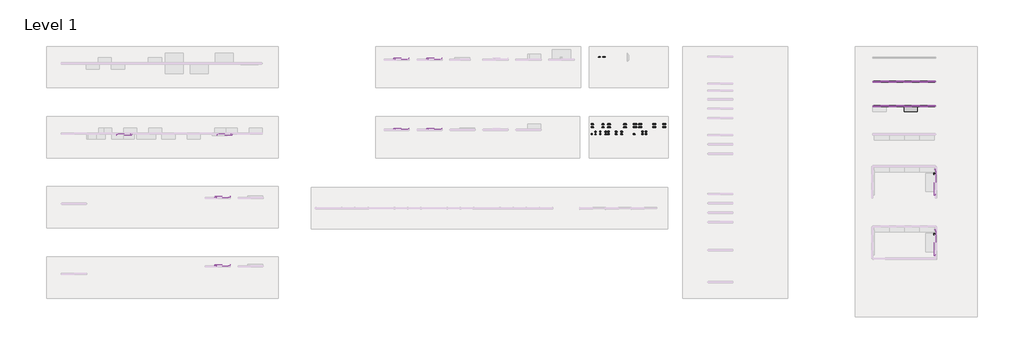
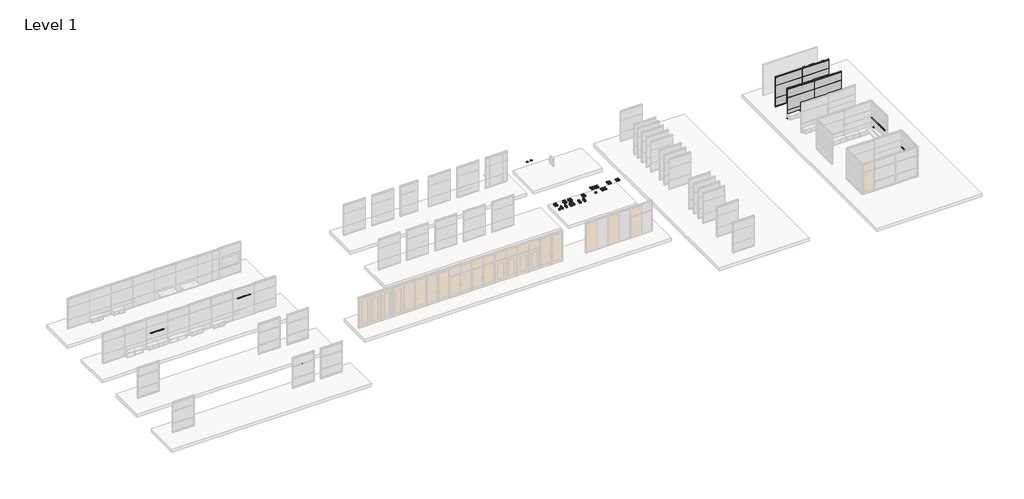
# One storey, part 13 of 13: 96 proxies, 10 light fixtures, 1 furniture element.
"""IFC4 building model written with IfcOpenShell, lengths in millimetres."""

from ifc_helpers import new_model, si_unit, origin, place, context, project, spatial, transform, mapped, element, save
from components import electrical_fixtures_6ca6a594, electrical_fixtures_9293c94c, electrical_fixtures_81150f9e, electrical_fixtures_d6838e8a, electrical_fixtures_fca81bba, electrical_fixtures_cc84fcd7, electrical_fixtures_a27f54d7, electrical_fixtures_2c1a8ef8, electrical_fixtures_bc09baf7, electrical_fixtures_3127a11c, electrical_fixtures_95b66924, electrical_fixtures_28eba391, electrical_fixtures_258e8735, electrical_fixtures_5008ccd6, electrical_fixtures_45b038c0, electrical_fixtures_cc8c5b9d, dual_1_power_1_data_6782b69d, dual_1_power_1_data_70394452, fascia_teknion_ceiling_and_base_ffb1_896a0c16, fascia_teknion_ceiling_and_base_ffb1_9837481b, frame_teknion_horizontal_rail_fkk_8a89803d, level_i_b17bdb42, level_i_0f8aae00, level_i_bottom_886b868d, level_i_top_2ca9f02e, level_ii_c1ed75fc, level_ii_f53a0955, level_iii_4f8121dc, level_iii_edf6dfbd, pd_horizontal_module_communications_3bd114d5, pd_horizontal_module_double_one_15_amp_standard_91662da0, pd_horizontal_module_double_one_20_amp_standard_4a8edad1, pd_horizontal_module_double_two_15_amp_standard_6849602c, pd_horizontal_module_double_two_20_amp_standard_3f62b5b6, pd_horizontal_module_single_15_amp_standard_5c934545, pd_horizontal_module_single_20_amp_standard_525e48b1, pd_vertical_module_communications_1fad3fac, pd_vertical_module_double_one_15_amp_standard_ac9b215e, pd_vertical_module_double_one_20_amp_standard_2b35b868, pd_vertical_module_double_two_15_amp_standard_5d486d28, pd_vertical_module_double_two_20_amp_standard_2ea52ada, pd_vertical_module_quad_15_amp_standard_all_outlets_71b641b9, pd_vertical_module_quad_20_amp_standard_all_outlets_6899d5ff, pd_vertical_module_single_15_amp_standard_42925ea9, pd_vertical_module_single_20_amp_standard_4b623c85, pd_vertical_module_triple_15_amp_standard_c933c7ee, pd_vertical_module_triple_20_amp_standard_33b3a22f, quad_2_power_2_usb_1_data_bfb4347e, furniture_d19da1b5, light_fixture_f7112a97, task_light_84543311, task_light_f32377d4

model = new_model("IFC4")

# Units and contexts
model_context = context("Model", 3, world=origin())
ifc_project = project(units=[si_unit("LENGTHUNIT", "METRE", prefix="MILLI")], contexts=[model_context])

# Site, building, storey
site = spatial("IfcSite", under=ifc_project)
building = spatial("IfcBuilding", under=site)
storey = spatial("IfcBuildingStorey", under=building, Name="Level 1", Elevation=0.0)

# Proxies
placement = place(None, origin())
electrical_fixtures_shape = electrical_fixtures_6ca6a594(model_context)
element("IfcBuildingElementProxy", 1, Name="Electrical-Teknion-EPDHS_Horizontal_Power_Data_Single-R2019 : PD Horizontal Module - Single 20 Amp USB (A+C)", ObjectType="Electrical-Teknion-EPDHS_Horizontal_Power_Data_Single-R2019 : PD Horizontal Module - Single 20 Amp USB (A+C)", at=placement, inside=storey, context=model_context, shape_type="MappedRepresentation", body=[
    mapped(electrical_fixtures_shape, transform((1383.1492935, 16260.8647881, 0.0), x_axis=(1.0, 0.0, 0.0), y_axis=(0.0, 1.0, 0.0), z_axis=(0.0, 0.0, 1.0))),
])
electrical_fixtures_2_shape = electrical_fixtures_9293c94c(model_context)
element("IfcBuildingElementProxy", 2, Name="Electrical-Teknion-EPDHD_Horizontal_Power_Data_Double-R2019 : PD Horizontal Module - Double 15 Amp USB (A+C)", ObjectType="Electrical-Teknion-EPDHD_Horizontal_Power_Data_Double-R2019 : PD Horizontal Module - Double 15 Amp USB (A+C)", at=placement, inside=storey, context=model_context, shape_type="MappedRepresentation", body=[
    mapped(electrical_fixtures_2_shape, transform((2000.5429379, 16611.4196854, 0.0), x_axis=(1.0, 0.0, 0.0), y_axis=(0.0, 1.0, 0.0), z_axis=(0.0, 0.0, 1.0))),
])
electrical_fixtures_3_shape = electrical_fixtures_81150f9e(model_context)
element("IfcBuildingElementProxy", 3, Name="Electrical-Teknion-EPDHD_Horizontal_Power_Data_Double-R2019 : PD Horizontal Module - Double 20 Amp USB (A+C)", ObjectType="Electrical-Teknion-EPDHD_Horizontal_Power_Data_Double-R2019 : PD Horizontal Module - Double 20 Amp USB (A+C)", at=placement, inside=storey, context=model_context, shape_type="MappedRepresentation", body=[
    mapped(electrical_fixtures_3_shape, transform((2000.5429379, 16835.8311056, 0.0), x_axis=(1.0, 0.0, 0.0), y_axis=(0.0, 1.0, 0.0), z_axis=(0.0, 0.0, 1.0))),
])
electrical_fixtures_4_shape = electrical_fixtures_d6838e8a(model_context)
element("IfcBuildingElementProxy", 4, Name="Electrical-Teknion-EPDHD_Horizontal_Power_Data_Double-R2019 : PD Horizontal Module - Double 15 Amp USB (A+C) & 15 Amp Standard", ObjectType="Electrical-Teknion-EPDHD_Horizontal_Power_Data_Double-R2019 : PD Horizontal Module - Double 15 Amp USB (A+C) & 15 Amp Standard", at=placement, inside=storey, context=model_context, shape_type="MappedRepresentation", body=[
    mapped(electrical_fixtures_4_shape, transform((2808.92989, 16611.4196854, 0.0), x_axis=(1.0, 0.0, 0.0), y_axis=(0.0, 1.0, 0.0), z_axis=(0.0, 0.0, 1.0))),
])
electrical_fixtures_5_shape = electrical_fixtures_fca81bba(model_context)
element("IfcBuildingElementProxy", 5, Name="Electrical-Teknion-EPDHD_Horizontal_Power_Data_Double-R2019 : PD Horizontal Module - Double 20 Amp USB (A+C) & 20 Amp Standard", ObjectType="Electrical-Teknion-EPDHD_Horizontal_Power_Data_Double-R2019 : PD Horizontal Module - Double 20 Amp USB (A+C) & 20 Amp Standard", at=placement, inside=storey, context=model_context, shape_type="MappedRepresentation", body=[
    mapped(electrical_fixtures_5_shape, transform((2808.92989, 16835.8311056, 0.0), x_axis=(1.0, 0.0, 0.0), y_axis=(0.0, 1.0, 0.0), z_axis=(0.0, 0.0, 1.0))),
])
electrical_fixtures_6_shape = electrical_fixtures_cc84fcd7(model_context)
element("IfcBuildingElementProxy", 6, Name="Electrical-Teknion-EPDMS_Vertical_Power_Data_Single-R2019 : PD Vertical Module - Single 15 Amp USB (A+C)", ObjectType="Electrical-Teknion-EPDMS_Vertical_Power_Data_Single-R2019 : PD Vertical Module - Single 15 Amp USB (A+C)", at=placement, inside=storey, context=model_context, shape_type="MappedRepresentation", body=[
    mapped(electrical_fixtures_6_shape, transform((-2279.8579837, 16036.4533679, 0.0), x_axis=(1.0, 0.0, 0.0), y_axis=(0.0, 1.0, 0.0), z_axis=(0.0, 0.0, 1.0))),
])
electrical_fixtures_7_shape = electrical_fixtures_a27f54d7(model_context)
element("IfcBuildingElementProxy", 7, Name="Electrical-Teknion-EPDMS_Vertical_Power_Data_Single-R2019 : PD Vertical Module - Single 20 Amp USB (A+C)", ObjectType="Electrical-Teknion-EPDMS_Vertical_Power_Data_Single-R2019 : PD Vertical Module - Single 20 Amp USB (A+C)", at=placement, inside=storey, context=model_context, shape_type="MappedRepresentation", body=[
    mapped(electrical_fixtures_7_shape, transform((-2279.8579837, 16260.8647881, 0.0), x_axis=(1.0, 0.0, 0.0), y_axis=(0.0, 1.0, 0.0), z_axis=(0.0, 0.0, 1.0))),
])
electrical_fixtures_8_shape = electrical_fixtures_2c1a8ef8(model_context)
element("IfcBuildingElementProxy", 8, Name="Electrical-Teknion-EPDHS_Horizontal_Power_Data_Single-R2019 : PD Horizontal Module - Single 15 Amp USB (A+C)", ObjectType="Electrical-Teknion-EPDHS_Horizontal_Power_Data_Single-R2019 : PD Horizontal Module - Single 15 Amp USB (A+C)", at=placement, inside=storey, context=model_context, shape_type="MappedRepresentation", body=[
    mapped(electrical_fixtures_8_shape, transform((1383.1492935, 16036.4533679, 0.0), x_axis=(1.0, 0.0, 0.0), y_axis=(0.0, 1.0, 0.0), z_axis=(0.0, 0.0, 1.0))),
])
electrical_fixtures_9_shape = electrical_fixtures_bc09baf7(model_context)
element("IfcBuildingElementProxy", 9, Name="Electrical-Teknion-EPDMD_Vertical_Power_Data_Double-R2019 : PD Vertical Module - Double 15 Amp USB (A+C)", ObjectType="Electrical-Teknion-EPDMD_Vertical_Power_Data_Double-R2019 : PD Vertical Module - Double 15 Amp USB (A+C)", at=placement, inside=storey, context=model_context, shape_type="MappedRepresentation", body=[
    mapped(electrical_fixtures_9_shape, transform((-1017.8939167, 16036.4533679, 0.0), x_axis=(1.0, 0.0, 0.0), y_axis=(0.0, 1.0, 0.0), z_axis=(0.0, 0.0, 1.0))),
])
electrical_fixtures_10_shape = electrical_fixtures_3127a11c(model_context)
element("IfcBuildingElementProxy", 10, Name="Electrical-Teknion-EPDMD_Vertical_Power_Data_Double-R2019 : PD Vertical Module - Double 15 Amp USB (A+C) & 15 Amp Standard", ObjectType="Electrical-Teknion-EPDMD_Vertical_Power_Data_Double-R2019 : PD Vertical Module - Double 15 Amp USB (A+C) & 15 Amp Standard", at=placement, inside=storey, context=model_context, shape_type="MappedRepresentation", body=[
    mapped(electrical_fixtures_10_shape, transform((-574.3700001, 16036.4533679, 0.0), x_axis=(1.0, 0.0, 0.0), y_axis=(0.0, 1.0, 0.0), z_axis=(0.0, 0.0, 1.0))),
])
electrical_fixtures_11_shape = electrical_fixtures_95b66924(model_context)
element("IfcBuildingElementProxy", 11, Name="Electrical-Teknion-EPDMD_Vertical_Power_Data_Double-R2019 : PD Vertical Module - Double 20 Amp USB (A+C)", ObjectType="Electrical-Teknion-EPDMD_Vertical_Power_Data_Double-R2019 : PD Vertical Module - Double 20 Amp USB (A+C)", at=placement, inside=storey, context=model_context, shape_type="MappedRepresentation", body=[
    mapped(electrical_fixtures_11_shape, transform((-1017.8939167, 16260.8647881, 0.0), x_axis=(1.0, 0.0, 0.0), y_axis=(0.0, 1.0, 0.0), z_axis=(0.0, 0.0, 1.0))),
])
electrical_fixtures_12_shape = electrical_fixtures_28eba391(model_context)
element("IfcBuildingElementProxy", 12, Name="Electrical-Teknion-EPDMD_Vertical_Power_Data_Double-R2019 : PD Vertical Module - Double 20 Amp USB (A+C) & 20 Amp Standard", ObjectType="Electrical-Teknion-EPDMD_Vertical_Power_Data_Double-R2019 : PD Vertical Module - Double 20 Amp USB (A+C) & 20 Amp Standard", at=placement, inside=storey, context=model_context, shape_type="MappedRepresentation", body=[
    mapped(electrical_fixtures_12_shape, transform((-574.3700001, 16260.8647881, 0.0), x_axis=(1.0, 0.0, 0.0), y_axis=(0.0, 1.0, 0.0), z_axis=(0.0, 0.0, 1.0))),
])
electrical_fixtures_13_shape = electrical_fixtures_258e8735(model_context)
element("IfcBuildingElementProxy", 13, Name="Electrical-Teknion-EPDMQ_Vertical_Power_Data_Quad-R2019 : PD Vertical Module - Quad 15 Amp USB (A+C) & 15 Amp Standard", ObjectType="Electrical-Teknion-EPDMQ_Vertical_Power_Data_Quad-R2019 : PD Vertical Module - Quad 15 Amp USB (A+C) & 15 Amp Standard", at=placement, inside=storey, context=model_context, shape_type="MappedRepresentation", body=[
    mapped(electrical_fixtures_13_shape, transform((-359.3454086, 16611.4196854, 0.0), x_axis=(1.0, 0.0, 0.0), y_axis=(0.0, 1.0, 0.0), z_axis=(0.0, 0.0, 1.0))),
])
electrical_fixtures_14_shape = electrical_fixtures_5008ccd6(model_context)
element("IfcBuildingElementProxy", 14, Name="Electrical-Teknion-EPDMQ_Vertical_Power_Data_Quad-R2019 : PD Vertical Module - Quad 20 Amp USB (A+C) & 20 Amp Standard", ObjectType="Electrical-Teknion-EPDMQ_Vertical_Power_Data_Quad-R2019 : PD Vertical Module - Quad 20 Amp USB (A+C) & 20 Amp Standard", at=placement, inside=storey, context=model_context, shape_type="MappedRepresentation", body=[
    mapped(electrical_fixtures_14_shape, transform((-359.3454086, 16835.8311056, 0.0), x_axis=(1.0, 0.0, 0.0), y_axis=(0.0, 1.0, 0.0), z_axis=(0.0, 0.0, 1.0))),
])
electrical_fixtures_15_shape = electrical_fixtures_45b038c0(model_context)
element("IfcBuildingElementProxy", 15, Name="Electrical-Teknion-EPDMT_Vertical_Power_Data_Triple-R2019 : PD Vertical Module - Triple 15 Amp USB (A+C) & 15 Amp Standard", ObjectType="Electrical-Teknion-EPDMT_Vertical_Power_Data_Triple-R2019 : PD Vertical Module - Triple 15 Amp USB (A+C) & 15 Amp Standard", at=placement, inside=storey, context=model_context, shape_type="MappedRepresentation", body=[
    mapped(electrical_fixtures_15_shape, transform((-2109.4556285, 16611.4196854, 0.0), x_axis=(1.0, 0.0, 0.0), y_axis=(0.0, 1.0, 0.0), z_axis=(0.0, 0.0, 1.0))),
])
electrical_fixtures_16_shape = electrical_fixtures_cc8c5b9d(model_context)
element("IfcBuildingElementProxy", 16, Name="Electrical-Teknion-EPDMT_Vertical_Power_Data_Triple-R2019 : PD Vertical Module - Triple 20 Amp USB (A+C) & 20 Amp Standard", ObjectType="Electrical-Teknion-EPDMT_Vertical_Power_Data_Triple-R2019 : PD Vertical Module - Triple 20 Amp USB (A+C) & 20 Amp Standard", at=placement, inside=storey, context=model_context, shape_type="MappedRepresentation", body=[
    mapped(electrical_fixtures_16_shape, transform((-2109.4556285, 16835.8311056, 0.0), x_axis=(1.0, 0.0, 0.0), y_axis=(0.0, 1.0, 0.0), z_axis=(0.0, 0.0, 1.0))),
])
dual_1_power_1_data_shape = dual_1_power_1_data_6782b69d(model_context)
element("IfcBuildingElementProxy", 17, Name="Accessory-Power_Cube-Teknion-Altos_Landscape-R2015 : Dual, 1 Power 1 Data", ObjectType="Accessory-Power_Cube-Teknion-Altos_Landscape-R2015 : Dual, 1 Power 1 Data", at=placement, inside=storey, context=model_context, shape_type="MappedRepresentation", body=[
    mapped(dual_1_power_1_data_shape, transform((-2329.6724115, 22412.0569796, 0.0), x_axis=(1.0, 0.0, 0.0), y_axis=(0.0, 1.0, 0.0), z_axis=(0.0, 0.0, 1.0))),
])
dual_1_power_1_data_2_shape = dual_1_power_1_data_70394452(model_context)
element("IfcBuildingElementProxy", 18, Name="Accessory-Power_Cube-Teknion-Altos_Landscape-R2015 : Dual, 1 Power 1 Data", ObjectType="Accessory-Power_Cube-Teknion-Altos_Landscape-R2015 : Dual, 1 Power 1 Data", at=placement, inside=storey, context=model_context, shape_type="MappedRepresentation", body=[
    mapped(dual_1_power_1_data_2_shape, transform((24864.904591, 12848.3823307, 0.0), x_axis=(0.0, -1.0000000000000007, 0.0), y_axis=(1.0000000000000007, 0.0, 0.0), z_axis=(0.0, 0.0, 1.0))),
])
element("IfcBuildingElementProxy", 19, Name="Accessory-Power_Cube-Teknion-Altos_Landscape-R2015 : Dual, 1 Power 1 Data", ObjectType="Accessory-Power_Cube-Teknion-Altos_Landscape-R2015 : Dual, 1 Power 1 Data", at=placement, inside=storey, context=model_context, shape_type="MappedRepresentation", body=[
    mapped(dual_1_power_1_data_2_shape, transform((24864.904591, 7971.5823307, 0.0), x_axis=(0.0, -1.0000000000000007, 0.0), y_axis=(1.0000000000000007, 0.0, 0.0), z_axis=(0.0, 0.0, 1.0))),
])
fascia_teknion_ceiling_and_base_ffb1_shape = fascia_teknion_ceiling_and_base_ffb1_896a0c16(model_context)
element("IfcBuildingElementProxy", 20, Name="Fascia-Teknion-Ceiling_and_Base : FFB1", ObjectType="Fascia-Teknion-Ceiling_and_Base : FFB1", at=placement, inside=storey, context=model_context, shape_type="MappedRepresentation", body=[
    mapped(fascia_teknion_ceiling_and_base_ffb1_shape, transform((21074.4289087, 20357.5069536, 15.875), x_axis=(1.0, 0.0, 0.0), y_axis=(0.0, 1.0, 0.0), z_axis=(0.0, 0.0, 1.0))),
])
element("IfcBuildingElementProxy", 21, Name="Fascia-Teknion-Ceiling_and_Base : FFB1", ObjectType="Fascia-Teknion-Ceiling_and_Base : FFB1", at=placement, inside=storey, context=model_context, shape_type="MappedRepresentation", body=[
    mapped(fascia_teknion_ceiling_and_base_ffb1_shape, transform((23600.439065, 20357.5069536, 15.875), x_axis=(1.0, 0.0, 0.0), y_axis=(0.0, 1.0, 0.0), z_axis=(0.0, 0.0, 1.0))),
])
element("IfcBuildingElementProxy", 22, Name="Fascia-Teknion-Ceiling_and_Base : FFB1", ObjectType="Fascia-Teknion-Ceiling_and_Base : FFB1", at=placement, inside=storey, context=model_context, shape_type="MappedRepresentation", body=[
    mapped(fascia_teknion_ceiling_and_base_ffb1_shape, transform((21074.4289087, 18376.3069536, 15.875), x_axis=(1.0, 0.0, 0.0), y_axis=(0.0, 1.0, 0.0), z_axis=(0.0, 0.0, 1.0))),
])
element("IfcBuildingElementProxy", 23, Name="Fascia-Teknion-Ceiling_and_Base : FFB1", ObjectType="Fascia-Teknion-Ceiling_and_Base : FFB1", at=placement, inside=storey, context=model_context, shape_type="MappedRepresentation", body=[
    mapped(fascia_teknion_ceiling_and_base_ffb1_shape, transform((23600.439065, 18376.3069536, 15.875), x_axis=(1.0, 0.0, 0.0), y_axis=(0.0, 1.0, 0.0), z_axis=(0.0, 0.0, 1.0))),
])
fascia_teknion_ceiling_and_base_ffb1_2_shape = fascia_teknion_ceiling_and_base_ffb1_9837481b(model_context)
element("IfcBuildingElementProxy", 24, Name="Fascia-Teknion-Ceiling_and_Base : FFB1", ObjectType="Fascia-Teknion-Ceiling_and_Base : FFB1", at=placement, inside=storey, context=model_context, shape_type="MappedRepresentation", body=[
    mapped(fascia_teknion_ceiling_and_base_ffb1_2_shape, transform((21074.4289087, 20295.5309536, 15.875), x_axis=(1.0, 0.0, 0.0), y_axis=(0.0, 1.0, 0.0), z_axis=(0.0, 0.0, 1.0))),
])
element("IfcBuildingElementProxy", 25, Name="Fascia-Teknion-Ceiling_and_Base : FFB1", ObjectType="Fascia-Teknion-Ceiling_and_Base : FFB1", at=placement, inside=storey, context=model_context, shape_type="MappedRepresentation", body=[
    mapped(fascia_teknion_ceiling_and_base_ffb1_2_shape, transform((23600.439065, 20295.5309536, 15.875), x_axis=(1.0, 0.0, 0.0), y_axis=(0.0, 1.0, 0.0), z_axis=(0.0, 0.0, 1.0))),
])
element("IfcBuildingElementProxy", 26, Name="Fascia-Teknion-Ceiling_and_Base : FFB1", ObjectType="Fascia-Teknion-Ceiling_and_Base : FFB1", at=placement, inside=storey, context=model_context, shape_type="MappedRepresentation", body=[
    mapped(fascia_teknion_ceiling_and_base_ffb1_2_shape, transform((21074.4289087, 18314.3309536, 15.875), x_axis=(1.0, 0.0, 0.0), y_axis=(0.0, 1.0, 0.0), z_axis=(0.0, 0.0, 1.0))),
])
element("IfcBuildingElementProxy", 27, Name="Fascia-Teknion-Ceiling_and_Base : FFB1", ObjectType="Fascia-Teknion-Ceiling_and_Base : FFB1", at=placement, inside=storey, context=model_context, shape_type="MappedRepresentation", body=[
    mapped(fascia_teknion_ceiling_and_base_ffb1_2_shape, transform((23600.439065, 18314.3309536, 15.875), x_axis=(1.0, 0.0, 0.0), y_axis=(0.0, 1.0, 0.0), z_axis=(0.0, 0.0, 1.0))),
])
element("IfcBuildingElementProxy", 28, Name="Fascia-Teknion-Ceiling_and_Base : FFC", ObjectType="Fascia-Teknion-Ceiling_and_Base : FFC", at=placement, inside=storey, context=model_context, shape_type="MappedRepresentation", body=[
    mapped(fascia_teknion_ceiling_and_base_ffb1_shape, transform((21074.4289087, 20357.5069536, 2950.845), x_axis=(1.0, 0.0, 0.0), y_axis=(0.0, 1.0, 0.0), z_axis=(0.0, 0.0, 1.0))),
])
element("IfcBuildingElementProxy", 29, Name="Fascia-Teknion-Ceiling_and_Base : FFC", ObjectType="Fascia-Teknion-Ceiling_and_Base : FFC", at=placement, inside=storey, context=model_context, shape_type="MappedRepresentation", body=[
    mapped(fascia_teknion_ceiling_and_base_ffb1_shape, transform((23600.439065, 20357.5069536, 2950.845), x_axis=(1.0, 0.0, 0.0), y_axis=(0.0, 1.0, 0.0), z_axis=(0.0, 0.0, 1.0))),
])
element("IfcBuildingElementProxy", 30, Name="Fascia-Teknion-Ceiling_and_Base : FFC", ObjectType="Fascia-Teknion-Ceiling_and_Base : FFC", at=placement, inside=storey, context=model_context, shape_type="MappedRepresentation", body=[
    mapped(fascia_teknion_ceiling_and_base_ffb1_shape, transform((21074.4289087, 18376.3069536, 2950.845), x_axis=(1.0, 0.0, 0.0), y_axis=(0.0, 1.0, 0.0), z_axis=(0.0, 0.0, 1.0))),
])
element("IfcBuildingElementProxy", 31, Name="Fascia-Teknion-Ceiling_and_Base : FFC", ObjectType="Fascia-Teknion-Ceiling_and_Base : FFC", at=placement, inside=storey, context=model_context, shape_type="MappedRepresentation", body=[
    mapped(fascia_teknion_ceiling_and_base_ffb1_shape, transform((23600.439065, 18376.3069536, 2950.845), x_axis=(1.0, 0.0, 0.0), y_axis=(0.0, 1.0, 0.0), z_axis=(0.0, 0.0, 1.0))),
])
element("IfcBuildingElementProxy", 32, Name="Fascia-Teknion-Ceiling_and_Base : FFC", ObjectType="Fascia-Teknion-Ceiling_and_Base : FFC", at=placement, inside=storey, context=model_context, shape_type="MappedRepresentation", body=[
    mapped(fascia_teknion_ceiling_and_base_ffb1_2_shape, transform((21074.4289087, 20295.5309536, 2950.845), x_axis=(1.0, 0.0, 0.0), y_axis=(0.0, 1.0, 0.0), z_axis=(0.0, 0.0, 1.0))),
])
element("IfcBuildingElementProxy", 33, Name="Fascia-Teknion-Ceiling_and_Base : FFC", ObjectType="Fascia-Teknion-Ceiling_and_Base : FFC", at=placement, inside=storey, context=model_context, shape_type="MappedRepresentation", body=[
    mapped(fascia_teknion_ceiling_and_base_ffb1_2_shape, transform((23600.439065, 20295.5309536, 2950.845), x_axis=(1.0, 0.0, 0.0), y_axis=(0.0, 1.0, 0.0), z_axis=(0.0, 0.0, 1.0))),
])
element("IfcBuildingElementProxy", 34, Name="Fascia-Teknion-Ceiling_and_Base : FFC", ObjectType="Fascia-Teknion-Ceiling_and_Base : FFC", at=placement, inside=storey, context=model_context, shape_type="MappedRepresentation", body=[
    mapped(fascia_teknion_ceiling_and_base_ffb1_2_shape, transform((21074.4289087, 18314.3309536, 2950.845), x_axis=(1.0, 0.0, 0.0), y_axis=(0.0, 1.0, 0.0), z_axis=(0.0, 0.0, 1.0))),
])
element("IfcBuildingElementProxy", 35, Name="Fascia-Teknion-Ceiling_and_Base : FFC", ObjectType="Fascia-Teknion-Ceiling_and_Base : FFC", at=placement, inside=storey, context=model_context, shape_type="MappedRepresentation", body=[
    mapped(fascia_teknion_ceiling_and_base_ffb1_2_shape, transform((23600.439065, 18314.3309536, 2950.845), x_axis=(1.0, 0.0, 0.0), y_axis=(0.0, 1.0, 0.0), z_axis=(0.0, 0.0, 1.0))),
])
frame_teknion_horizontal_rail_fkk_shape = frame_teknion_horizontal_rail_fkk_8a89803d(model_context)
element("IfcBuildingElementProxy", 36, Name="Frame-Teknion-Horizontal_Rail : FKK", ObjectType="Frame-Teknion-Horizontal_Rail : FKK", at=placement, inside=storey, context=model_context, shape_type="MappedRepresentation", body=[
    mapped(frame_teknion_horizontal_rail_fkk_shape, transform((21074.4289087, 20326.5189536, 100.4514438), x_axis=(1.0, 0.0, 0.0), y_axis=(0.0, 1.0, 0.0), z_axis=(0.0, 0.0, 1.0))),
])
element("IfcBuildingElementProxy", 37, Name="Frame-Teknion-Horizontal_Rail : FKK", ObjectType="Frame-Teknion-Horizontal_Rail : FKK", at=placement, inside=storey, context=model_context, shape_type="MappedRepresentation", body=[
    mapped(frame_teknion_horizontal_rail_fkk_shape, transform((21074.4289087, 20326.5189536, 2947.5374437), x_axis=(1.0, 0.0, 0.0), y_axis=(0.0, 1.0, 0.0), z_axis=(0.0, 0.0, 1.0))),
])
element("IfcBuildingElementProxy", 38, Name="Frame-Teknion-Horizontal_Rail : FKK", ObjectType="Frame-Teknion-Horizontal_Rail : FKK", at=placement, inside=storey, context=model_context, shape_type="MappedRepresentation", body=[
    mapped(frame_teknion_horizontal_rail_fkk_shape, transform((23600.439065, 20326.5189536, 100.4514438), x_axis=(1.0, 0.0, 0.0), y_axis=(0.0, 1.0, 0.0), z_axis=(0.0, 0.0, 1.0))),
])
element("IfcBuildingElementProxy", 39, Name="Frame-Teknion-Horizontal_Rail : FKK", ObjectType="Frame-Teknion-Horizontal_Rail : FKK", at=placement, inside=storey, context=model_context, shape_type="MappedRepresentation", body=[
    mapped(frame_teknion_horizontal_rail_fkk_shape, transform((23600.439065, 20326.5189536, 2947.5374437), x_axis=(1.0, 0.0, 0.0), y_axis=(0.0, 1.0, 0.0), z_axis=(0.0, 0.0, 1.0))),
])
element("IfcBuildingElementProxy", 40, Name="Frame-Teknion-Horizontal_Rail : FKK", ObjectType="Frame-Teknion-Horizontal_Rail : FKK", at=placement, inside=storey, context=model_context, shape_type="MappedRepresentation", body=[
    mapped(frame_teknion_horizontal_rail_fkk_shape, transform((21074.4289087, 18345.3189536, 100.4514438), x_axis=(1.0, 0.0, 0.0), y_axis=(0.0, 1.0, 0.0), z_axis=(0.0, 0.0, 1.0))),
])
element("IfcBuildingElementProxy", 41, Name="Frame-Teknion-Horizontal_Rail : FKK", ObjectType="Frame-Teknion-Horizontal_Rail : FKK", at=placement, inside=storey, context=model_context, shape_type="MappedRepresentation", body=[
    mapped(frame_teknion_horizontal_rail_fkk_shape, transform((21074.4289087, 18345.3189536, 2947.5374437), x_axis=(1.0, 0.0, 0.0), y_axis=(0.0, 1.0, 0.0), z_axis=(0.0, 0.0, 1.0))),
])
element("IfcBuildingElementProxy", 42, Name="Frame-Teknion-Horizontal_Rail : FKK", ObjectType="Frame-Teknion-Horizontal_Rail : FKK", at=placement, inside=storey, context=model_context, shape_type="MappedRepresentation", body=[
    mapped(frame_teknion_horizontal_rail_fkk_shape, transform((23600.439065, 18345.3189536, 100.4514438), x_axis=(1.0, 0.0, 0.0), y_axis=(0.0, 1.0, 0.0), z_axis=(0.0, 0.0, 1.0))),
])
element("IfcBuildingElementProxy", 43, Name="Frame-Teknion-Horizontal_Rail : FKK", ObjectType="Frame-Teknion-Horizontal_Rail : FKK", at=placement, inside=storey, context=model_context, shape_type="MappedRepresentation", body=[
    mapped(frame_teknion_horizontal_rail_fkk_shape, transform((23600.439065, 18345.3189536, 2947.5374437), x_axis=(1.0, 0.0, 0.0), y_axis=(0.0, 1.0, 0.0), z_axis=(0.0, 0.0, 1.0))),
])
element("IfcBuildingElementProxy", 44, Name="Frame-Teknion-Landscape_Horizontal_Rail : FLKH", ObjectType="Frame-Teknion-Landscape_Horizontal_Rail : FLKH", at=placement, inside=storey, context=model_context, shape_type="MappedRepresentation", body=[
    mapped(frame_teknion_horizontal_rail_fkk_shape, transform((21074.4289087, 20326.5189536, 917.575), x_axis=(1.0, 0.0, 0.0), y_axis=(0.0, 1.0, 0.0), z_axis=(0.0, 0.0, 1.0))),
])
element("IfcBuildingElementProxy", 45, Name="Frame-Teknion-Landscape_Horizontal_Rail : FLKH", ObjectType="Frame-Teknion-Landscape_Horizontal_Rail : FLKH", at=placement, inside=storey, context=model_context, shape_type="MappedRepresentation", body=[
    mapped(frame_teknion_horizontal_rail_fkk_shape, transform((21074.4289087, 20326.5189536, 2136.775), x_axis=(1.0, 0.0, 0.0), y_axis=(0.0, 1.0, 0.0), z_axis=(0.0, 0.0, 1.0))),
])
element("IfcBuildingElementProxy", 46, Name="Frame-Teknion-Landscape_Horizontal_Rail : FLKH", ObjectType="Frame-Teknion-Landscape_Horizontal_Rail : FLKH", at=placement, inside=storey, context=model_context, shape_type="MappedRepresentation", body=[
    mapped(frame_teknion_horizontal_rail_fkk_shape, transform((23600.439065, 20326.5189536, 917.575), x_axis=(1.0, 0.0, 0.0), y_axis=(0.0, 1.0, 0.0), z_axis=(0.0, 0.0, 1.0))),
])
element("IfcBuildingElementProxy", 47, Name="Frame-Teknion-Landscape_Horizontal_Rail : FLKH", ObjectType="Frame-Teknion-Landscape_Horizontal_Rail : FLKH", at=placement, inside=storey, context=model_context, shape_type="MappedRepresentation", body=[
    mapped(frame_teknion_horizontal_rail_fkk_shape, transform((23600.439065, 20326.5189536, 2136.775), x_axis=(1.0, 0.0, 0.0), y_axis=(0.0, 1.0, 0.0), z_axis=(0.0, 0.0, 1.0))),
])
element("IfcBuildingElementProxy", 48, Name="Frame-Teknion-Landscape_Horizontal_Rail : FLKH", ObjectType="Frame-Teknion-Landscape_Horizontal_Rail : FLKH", at=placement, inside=storey, context=model_context, shape_type="MappedRepresentation", body=[
    mapped(frame_teknion_horizontal_rail_fkk_shape, transform((23600.439065, 18345.3189536, 917.575), x_axis=(1.0, 0.0, 0.0), y_axis=(0.0, 1.0, 0.0), z_axis=(0.0, 0.0, 1.0))),
])
element("IfcBuildingElementProxy", 49, Name="Frame-Teknion-Landscape_Horizontal_Rail : FLKH", ObjectType="Frame-Teknion-Landscape_Horizontal_Rail : FLKH", at=placement, inside=storey, context=model_context, shape_type="MappedRepresentation", body=[
    mapped(frame_teknion_horizontal_rail_fkk_shape, transform((23600.439065, 18345.3189536, 2136.775), x_axis=(1.0, 0.0, 0.0), y_axis=(0.0, 1.0, 0.0), z_axis=(0.0, 0.0, 1.0))),
])
element("IfcBuildingElementProxy", 50, Name="Frame-Teknion-Landscape_Horizontal_Rail : FLKH", ObjectType="Frame-Teknion-Landscape_Horizontal_Rail : FLKH", at=placement, inside=storey, context=model_context, shape_type="MappedRepresentation", body=[
    mapped(frame_teknion_horizontal_rail_fkk_shape, transform((21074.4289087, 18345.3189536, 536.575), x_axis=(1.0, 0.0, 0.0), y_axis=(0.0, 1.0, 0.0), z_axis=(0.0, 0.0, 1.0))),
])
element("IfcBuildingElementProxy", 51, Name="Frame-Teknion-Landscape_Horizontal_Rail : FLKH", ObjectType="Frame-Teknion-Landscape_Horizontal_Rail : FLKH", at=placement, inside=storey, context=model_context, shape_type="MappedRepresentation", body=[
    mapped(frame_teknion_horizontal_rail_fkk_shape, transform((23600.439065, 18345.3189536, 536.575), x_axis=(1.0, 0.0, 0.0), y_axis=(0.0, 1.0, 0.0), z_axis=(0.0, 0.0, 1.0))),
])
level_i_shape = level_i_b17bdb42(model_context)
element("IfcBuildingElementProxy", 52, Name="Panel-Fascia-Teknion-Altos-Landscape : Level I", ObjectType="Panel-Fascia-Teknion-Altos-Landscape : Level I", at=placement, inside=storey, context=model_context, shape_type="MappedRepresentation", body=[
    mapped(level_i_shape, transform((21074.4289087, 20367.0319536, 100.457), x_axis=(1.0, 0.0, 0.0), y_axis=(0.0, 1.0, 0.0), z_axis=(0.0, 0.0, 1.0))),
])
element("IfcBuildingElementProxy", 53, Name="Panel-Fascia-Teknion-Altos-Landscape : Level I", ObjectType="Panel-Fascia-Teknion-Altos-Landscape : Level I", at=placement, inside=storey, context=model_context, shape_type="MappedRepresentation", body=[
    mapped(level_i_shape, transform((23600.439065, 20367.0319536, 100.457), x_axis=(1.0, 0.0, 0.0), y_axis=(0.0, 1.0, 0.0), z_axis=(0.0, 0.0, 1.0))),
])
element("IfcBuildingElementProxy", 54, Name="Panel-Fascia-Teknion-Altos-Landscape : Level I", ObjectType="Panel-Fascia-Teknion-Altos-Landscape : Level I", at=placement, inside=storey, context=model_context, shape_type="MappedRepresentation", body=[
    mapped(level_i_shape, transform((21074.4289087, 18385.8319536, 100.457), x_axis=(1.0, 0.0, 0.0), y_axis=(0.0, 1.0, 0.0), z_axis=(0.0, 0.0, 1.0))),
])
element("IfcBuildingElementProxy", 55, Name="Panel-Fascia-Teknion-Altos-Landscape : Level I", ObjectType="Panel-Fascia-Teknion-Altos-Landscape : Level I", at=placement, inside=storey, context=model_context, shape_type="MappedRepresentation", body=[
    mapped(level_i_shape, transform((23600.439065, 18385.8319536, 100.457), x_axis=(1.0, 0.0, 0.0), y_axis=(0.0, 1.0, 0.0), z_axis=(0.0, 0.0, 1.0))),
])
level_i_2_shape = level_i_0f8aae00(model_context)
element("IfcBuildingElementProxy", 56, Name="Panel-Fascia-Teknion-Altos-Landscape : Level I", ObjectType="Panel-Fascia-Teknion-Altos-Landscape : Level I", at=placement, inside=storey, context=model_context, shape_type="MappedRepresentation", body=[
    mapped(level_i_2_shape, transform((21074.4289087, 20286.0059536, 100.457), x_axis=(1.0, 0.0, 0.0), y_axis=(0.0, 1.0, 0.0), z_axis=(0.0, 0.0, 1.0))),
])
element("IfcBuildingElementProxy", 57, Name="Panel-Fascia-Teknion-Altos-Landscape : Level I", ObjectType="Panel-Fascia-Teknion-Altos-Landscape : Level I", at=placement, inside=storey, context=model_context, shape_type="MappedRepresentation", body=[
    mapped(level_i_2_shape, transform((23600.439065, 20286.0059536, 100.457), x_axis=(1.0, 0.0, 0.0), y_axis=(0.0, 1.0, 0.0), z_axis=(0.0, 0.0, 1.0))),
])
level_i_bottom_shape = level_i_bottom_886b868d(model_context)
element("IfcBuildingElementProxy", 58, Name="Panel-Fascia-Teknion-Altos-Landscape : Level I Bottom", ObjectType="Panel-Fascia-Teknion-Altos-Landscape : Level I Bottom", at=placement, inside=storey, context=model_context, shape_type="MappedRepresentation", body=[
    mapped(level_i_bottom_shape, transform((21074.4289087, 18304.8059536, 100.457), x_axis=(1.0, 0.0, 0.0), y_axis=(0.0, 1.0, 0.0), z_axis=(0.0, 0.0, 1.0))),
])
element("IfcBuildingElementProxy", 59, Name="Panel-Fascia-Teknion-Altos-Landscape : Level I Bottom", ObjectType="Panel-Fascia-Teknion-Altos-Landscape : Level I Bottom", at=placement, inside=storey, context=model_context, shape_type="MappedRepresentation", body=[
    mapped(level_i_bottom_shape, transform((23600.439065, 18304.8059536, 100.457), x_axis=(1.0, 0.0, 0.0), y_axis=(0.0, 1.0, 0.0), z_axis=(0.0, 0.0, 1.0))),
])
level_i_top_shape = level_i_top_2ca9f02e(model_context)
element("IfcBuildingElementProxy", 60, Name="Panel-Fascia-Teknion-Altos-Landscape : Level I Top", ObjectType="Panel-Fascia-Teknion-Altos-Landscape : Level I Top", at=placement, inside=storey, context=model_context, shape_type="MappedRepresentation", body=[
    mapped(level_i_top_shape, transform((21074.4289087, 18304.8059536, 536.575), x_axis=(1.0, 0.0, 0.0), y_axis=(0.0, 1.0, 0.0), z_axis=(0.0, 0.0, 1.0))),
])
element("IfcBuildingElementProxy", 61, Name="Panel-Fascia-Teknion-Altos-Landscape : Level I Top", ObjectType="Panel-Fascia-Teknion-Altos-Landscape : Level I Top", at=placement, inside=storey, context=model_context, shape_type="MappedRepresentation", body=[
    mapped(level_i_top_shape, transform((23600.439065, 18304.8059536, 536.575), x_axis=(1.0, 0.0, 0.0), y_axis=(0.0, 1.0, 0.0), z_axis=(0.0, 0.0, 1.0))),
])
level_ii_shape = level_ii_c1ed75fc(model_context)
element("IfcBuildingElementProxy", 62, Name="Panel-Fascia-Teknion-Altos-Landscape : Level II", ObjectType="Panel-Fascia-Teknion-Altos-Landscape : Level II", at=placement, inside=storey, context=model_context, shape_type="MappedRepresentation", body=[
    mapped(level_ii_shape, transform((21074.4289087, 20286.0059536, 917.575), x_axis=(1.0, 0.0, 0.0), y_axis=(0.0, 1.0, 0.0), z_axis=(0.0, 0.0, 1.0))),
])
element("IfcBuildingElementProxy", 63, Name="Panel-Fascia-Teknion-Altos-Landscape : Level II", ObjectType="Panel-Fascia-Teknion-Altos-Landscape : Level II", at=placement, inside=storey, context=model_context, shape_type="MappedRepresentation", body=[
    mapped(level_ii_shape, transform((23600.439065, 20286.0059536, 917.575), x_axis=(1.0, 0.0, 0.0), y_axis=(0.0, 1.0, 0.0), z_axis=(0.0, 0.0, 1.0))),
])
element("IfcBuildingElementProxy", 64, Name="Panel-Fascia-Teknion-Altos-Landscape : Level II", ObjectType="Panel-Fascia-Teknion-Altos-Landscape : Level II", at=placement, inside=storey, context=model_context, shape_type="MappedRepresentation", body=[
    mapped(level_ii_shape, transform((21074.4289087, 18304.8059536, 917.575), x_axis=(1.0, 0.0, 0.0), y_axis=(0.0, 1.0, 0.0), z_axis=(0.0, 0.0, 1.0))),
])
element("IfcBuildingElementProxy", 65, Name="Panel-Fascia-Teknion-Altos-Landscape : Level II", ObjectType="Panel-Fascia-Teknion-Altos-Landscape : Level II", at=placement, inside=storey, context=model_context, shape_type="MappedRepresentation", body=[
    mapped(level_ii_shape, transform((23600.439065, 18304.8059536, 917.575), x_axis=(1.0, 0.0, 0.0), y_axis=(0.0, 1.0, 0.0), z_axis=(0.0, 0.0, 1.0))),
])
level_ii_2_shape = level_ii_f53a0955(model_context)
element("IfcBuildingElementProxy", 66, Name="Panel-Fascia-Teknion-Altos-Landscape : Level II", ObjectType="Panel-Fascia-Teknion-Altos-Landscape : Level II", at=placement, inside=storey, context=model_context, shape_type="MappedRepresentation", body=[
    mapped(level_ii_2_shape, transform((21074.4289087, 20367.0319536, 917.575), x_axis=(1.0, 0.0, 0.0), y_axis=(0.0, 1.0, 0.0), z_axis=(0.0, 0.0, 1.0))),
])
element("IfcBuildingElementProxy", 67, Name="Panel-Fascia-Teknion-Altos-Landscape : Level II", ObjectType="Panel-Fascia-Teknion-Altos-Landscape : Level II", at=placement, inside=storey, context=model_context, shape_type="MappedRepresentation", body=[
    mapped(level_ii_2_shape, transform((23600.439065, 20367.0319536, 917.575), x_axis=(1.0, 0.0, 0.0), y_axis=(0.0, 1.0, 0.0), z_axis=(0.0, 0.0, 1.0))),
])
element("IfcBuildingElementProxy", 68, Name="Panel-Fascia-Teknion-Altos-Landscape : Level II", ObjectType="Panel-Fascia-Teknion-Altos-Landscape : Level II", at=placement, inside=storey, context=model_context, shape_type="MappedRepresentation", body=[
    mapped(level_ii_2_shape, transform((21074.4289087, 18385.8319536, 917.575), x_axis=(1.0, 0.0, 0.0), y_axis=(0.0, 1.0, 0.0), z_axis=(0.0, 0.0, 1.0))),
])
element("IfcBuildingElementProxy", 69, Name="Panel-Fascia-Teknion-Altos-Landscape : Level II", ObjectType="Panel-Fascia-Teknion-Altos-Landscape : Level II", at=placement, inside=storey, context=model_context, shape_type="MappedRepresentation", body=[
    mapped(level_ii_2_shape, transform((23600.439065, 18385.8319536, 917.575), x_axis=(1.0, 0.0, 0.0), y_axis=(0.0, 1.0, 0.0), z_axis=(0.0, 0.0, 1.0))),
])
level_iii_shape = level_iii_4f8121dc(model_context)
element("IfcBuildingElementProxy", 70, Name="Panel-Fascia-Teknion-Altos-Landscape : Level III", ObjectType="Panel-Fascia-Teknion-Altos-Landscape : Level III", at=placement, inside=storey, context=model_context, shape_type="MappedRepresentation", body=[
    mapped(level_iii_shape, transform((21074.4289087, 20367.0319536, 2136.775), x_axis=(1.0, 0.0, 0.0), y_axis=(0.0, 1.0, 0.0), z_axis=(0.0, 0.0, 1.0))),
])
element("IfcBuildingElementProxy", 71, Name="Panel-Fascia-Teknion-Altos-Landscape : Level III", ObjectType="Panel-Fascia-Teknion-Altos-Landscape : Level III", at=placement, inside=storey, context=model_context, shape_type="MappedRepresentation", body=[
    mapped(level_iii_shape, transform((23600.439065, 20367.0319536, 2136.775), x_axis=(1.0, 0.0, 0.0), y_axis=(0.0, 1.0, 0.0), z_axis=(0.0, 0.0, 1.0))),
])
element("IfcBuildingElementProxy", 72, Name="Panel-Fascia-Teknion-Altos-Landscape : Level III", ObjectType="Panel-Fascia-Teknion-Altos-Landscape : Level III", at=placement, inside=storey, context=model_context, shape_type="MappedRepresentation", body=[
    mapped(level_iii_shape, transform((21074.4289087, 18385.8319536, 2136.775), x_axis=(1.0, 0.0, 0.0), y_axis=(0.0, 1.0, 0.0), z_axis=(0.0, 0.0, 1.0))),
])
element("IfcBuildingElementProxy", 73, Name="Panel-Fascia-Teknion-Altos-Landscape : Level III", ObjectType="Panel-Fascia-Teknion-Altos-Landscape : Level III", at=placement, inside=storey, context=model_context, shape_type="MappedRepresentation", body=[
    mapped(level_iii_shape, transform((23600.439065, 18385.8319536, 2136.775), x_axis=(1.0, 0.0, 0.0), y_axis=(0.0, 1.0, 0.0), z_axis=(0.0, 0.0, 1.0))),
])
level_iii_2_shape = level_iii_edf6dfbd(model_context)
element("IfcBuildingElementProxy", 74, Name="Panel-Fascia-Teknion-Altos-Landscape : Level III", ObjectType="Panel-Fascia-Teknion-Altos-Landscape : Level III", at=placement, inside=storey, context=model_context, shape_type="MappedRepresentation", body=[
    mapped(level_iii_2_shape, transform((21074.4289087, 20286.0059536, 2136.775), x_axis=(1.0, 0.0, 0.0), y_axis=(0.0, 1.0, 0.0), z_axis=(0.0, 0.0, 1.0))),
])
element("IfcBuildingElementProxy", 75, Name="Panel-Fascia-Teknion-Altos-Landscape : Level III", ObjectType="Panel-Fascia-Teknion-Altos-Landscape : Level III", at=placement, inside=storey, context=model_context, shape_type="MappedRepresentation", body=[
    mapped(level_iii_2_shape, transform((23600.439065, 20286.0059536, 2136.775), x_axis=(1.0, 0.0, 0.0), y_axis=(0.0, 1.0, 0.0), z_axis=(0.0, 0.0, 1.0))),
])
element("IfcBuildingElementProxy", 76, Name="Panel-Fascia-Teknion-Altos-Landscape : Level III", ObjectType="Panel-Fascia-Teknion-Altos-Landscape : Level III", at=placement, inside=storey, context=model_context, shape_type="MappedRepresentation", body=[
    mapped(level_iii_2_shape, transform((21074.4289087, 18304.8059536, 2136.775), x_axis=(1.0, 0.0, 0.0), y_axis=(0.0, 1.0, 0.0), z_axis=(0.0, 0.0, 1.0))),
])
element("IfcBuildingElementProxy", 77, Name="Panel-Fascia-Teknion-Altos-Landscape : Level III", ObjectType="Panel-Fascia-Teknion-Altos-Landscape : Level III", at=placement, inside=storey, context=model_context, shape_type="MappedRepresentation", body=[
    mapped(level_iii_2_shape, transform((23600.439065, 18304.8059536, 2136.775), x_axis=(1.0, 0.0, 0.0), y_axis=(0.0, 1.0, 0.0), z_axis=(0.0, 0.0, 1.0))),
])
pd_horizontal_module_communications_shape = pd_horizontal_module_communications_3bd114d5(model_context)
element("IfcBuildingElementProxy", 78, Name="Electrical-Teknion-EPDHC_Horizontal_Power_Data_Module_Communication-R2019 : PD Horizontal Module - Communications", ObjectType="Electrical-Teknion-EPDHC_Horizontal_Power_Data_Module_Communication-R2019 : PD Horizontal Module - Communications", at=placement, inside=storey, context=model_context, shape_type="MappedRepresentation", body=[
    mapped(pd_horizontal_module_communications_shape, transform((433.1311717, 16036.4533679, 0.0), x_axis=(1.0, 0.0, 0.0), y_axis=(0.0, 1.0, 0.0), z_axis=(0.0, 0.0, 1.0))),
])
pd_horizontal_module_double_one_15_amp_standard_shape = pd_horizontal_module_double_one_15_amp_standard_91662da0(model_context)
element("IfcBuildingElementProxy", 79, Name="Electrical-Teknion-EPDHD_Horizontal_Power_Data_Double-R2019 : PD Horizontal Module - Double One 15 Amp Standard", ObjectType="Electrical-Teknion-EPDHD_Horizontal_Power_Data_Double-R2019 : PD Horizontal Module - Double One 15 Amp Standard", at=placement, inside=storey, context=model_context, shape_type="MappedRepresentation", body=[
    mapped(pd_horizontal_module_double_one_15_amp_standard_shape, transform((433.1311717, 16611.4196854, 0.0), x_axis=(1.0, 0.0, 0.0), y_axis=(0.0, 1.0, 0.0), z_axis=(0.0, 0.0, 1.0))),
])
pd_horizontal_module_double_one_20_amp_standard_shape = pd_horizontal_module_double_one_20_amp_standard_4a8edad1(model_context)
element("IfcBuildingElementProxy", 80, Name="Electrical-Teknion-EPDHD_Horizontal_Power_Data_Double-R2019 : PD Horizontal Module - Double One 20 Amp Standard", ObjectType="Electrical-Teknion-EPDHD_Horizontal_Power_Data_Double-R2019 : PD Horizontal Module - Double One 20 Amp Standard", at=placement, inside=storey, context=model_context, shape_type="MappedRepresentation", body=[
    mapped(pd_horizontal_module_double_one_20_amp_standard_shape, transform((433.1311717, 16835.8311056, 0.0), x_axis=(1.0, 0.0, 0.0), y_axis=(0.0, 1.0, 0.0), z_axis=(0.0, 0.0, 1.0))),
])
pd_horizontal_module_double_two_15_amp_standard_shape = pd_horizontal_module_double_two_15_amp_standard_6849602c(model_context)
element("IfcBuildingElementProxy", 81, Name="Electrical-Teknion-EPDHD_Horizontal_Power_Data_Double-R2019 : PD Horizontal Module - Double Two 15 Amp Standard", ObjectType="Electrical-Teknion-EPDHD_Horizontal_Power_Data_Double-R2019 : PD Horizontal Module - Double Two 15 Amp Standard", at=placement, inside=storey, context=model_context, shape_type="MappedRepresentation", body=[
    mapped(pd_horizontal_module_double_two_15_amp_standard_shape, transform((844.0940671, 16611.4196854, 0.0), x_axis=(1.0, 0.0, 0.0), y_axis=(0.0, 1.0, 0.0), z_axis=(0.0, 0.0, 1.0))),
])
pd_horizontal_module_double_two_20_amp_standard_shape = pd_horizontal_module_double_two_20_amp_standard_3f62b5b6(model_context)
element("IfcBuildingElementProxy", 82, Name="Electrical-Teknion-EPDHD_Horizontal_Power_Data_Double-R2019 : PD Horizontal Module - Double Two 20 Amp Standard", ObjectType="Electrical-Teknion-EPDHD_Horizontal_Power_Data_Double-R2019 : PD Horizontal Module - Double Two 20 Amp Standard", at=placement, inside=storey, context=model_context, shape_type="MappedRepresentation", body=[
    mapped(pd_horizontal_module_double_two_20_amp_standard_shape, transform((844.0940671, 16835.8311056, 0.0), x_axis=(1.0, 0.0, 0.0), y_axis=(0.0, 1.0, 0.0), z_axis=(0.0, 0.0, 1.0))),
])
pd_horizontal_module_single_15_amp_standard_shape = pd_horizontal_module_single_15_amp_standard_5c934545(model_context)
element("IfcBuildingElementProxy", 83, Name="Electrical-Teknion-EPDHS_Horizontal_Power_Data_Single-R2019 : PD Horizontal Module - Single 15 Amp Standard", ObjectType="Electrical-Teknion-EPDHS_Horizontal_Power_Data_Single-R2019 : PD Horizontal Module - Single 15 Amp Standard", at=placement, inside=storey, context=model_context, shape_type="MappedRepresentation", body=[
    mapped(pd_horizontal_module_single_15_amp_standard_shape, transform((1100.2787292, 16036.4533679, 0.0), x_axis=(1.0, 0.0, 0.0), y_axis=(0.0, 1.0, 0.0), z_axis=(0.0, 0.0, 1.0))),
])
pd_horizontal_module_single_20_amp_standard_shape = pd_horizontal_module_single_20_amp_standard_525e48b1(model_context)
element("IfcBuildingElementProxy", 84, Name="Electrical-Teknion-EPDHS_Horizontal_Power_Data_Single-R2019 : PD Horizontal Module - Single 20 Amp Standard", ObjectType="Electrical-Teknion-EPDHS_Horizontal_Power_Data_Single-R2019 : PD Horizontal Module - Single 20 Amp Standard", at=placement, inside=storey, context=model_context, shape_type="MappedRepresentation", body=[
    mapped(pd_horizontal_module_single_20_amp_standard_shape, transform((1100.2787292, 16260.8647881, 0.0), x_axis=(1.0, 0.0, 0.0), y_axis=(0.0, 1.0, 0.0), z_axis=(0.0, 0.0, 1.0))),
])
pd_vertical_module_communications_shape = pd_vertical_module_communications_1fad3fac(model_context)
element("IfcBuildingElementProxy", 85, Name="Electrical-Teknion-EPDMC_Vertical_Power_Data_Module_Communication-R2019 : PD Vertical Module - Communications", ObjectType="Electrical-Teknion-EPDMC_Vertical_Power_Data_Module_Communication-R2019 : PD Vertical Module - Communications", at=placement, inside=storey, context=model_context, shape_type="MappedRepresentation", body=[
    mapped(pd_vertical_module_communications_shape, transform((-2963.0930859, 16036.4533679, 0.0), x_axis=(1.0, 0.0, 0.0), y_axis=(0.0, 1.0, 0.0), z_axis=(0.0, 0.0, 1.0))),
])
pd_vertical_module_double_one_15_amp_standard_shape = pd_vertical_module_double_one_15_amp_standard_ac9b215e(model_context)
element("IfcBuildingElementProxy", 86, Name="Electrical-Teknion-EPDMD_Vertical_Power_Data_Double-R2019 : PD Vertical Module - Double One 15 Amp Standard", ObjectType="Electrical-Teknion-EPDMD_Vertical_Power_Data_Double-R2019 : PD Vertical Module - Double One 15 Amp Standard", at=placement, inside=storey, context=model_context, shape_type="MappedRepresentation", body=[
    mapped(pd_vertical_module_double_one_15_amp_standard_shape, transform((-1858.458894, 16036.4533679, 0.0), x_axis=(1.0, 0.0, 0.0), y_axis=(0.0, 1.0, 0.0), z_axis=(0.0, 0.0, 1.0))),
])
pd_vertical_module_double_one_20_amp_standard_shape = pd_vertical_module_double_one_20_amp_standard_2b35b868(model_context)
element("IfcBuildingElementProxy", 87, Name="Electrical-Teknion-EPDMD_Vertical_Power_Data_Double-R2019 : PD Vertical Module - Double One 20 Amp Standard", ObjectType="Electrical-Teknion-EPDMD_Vertical_Power_Data_Double-R2019 : PD Vertical Module - Double One 20 Amp Standard", at=placement, inside=storey, context=model_context, shape_type="MappedRepresentation", body=[
    mapped(pd_vertical_module_double_one_20_amp_standard_shape, transform((-1858.458894, 16260.8647881, 0.0), x_axis=(1.0, 0.0, 0.0), y_axis=(0.0, 1.0, 0.0), z_axis=(0.0, 0.0, 1.0))),
])
pd_vertical_module_double_two_15_amp_standard_shape = pd_vertical_module_double_two_15_amp_standard_5d486d28(model_context)
element("IfcBuildingElementProxy", 88, Name="Electrical-Teknion-EPDMD_Vertical_Power_Data_Double-R2019 : PD Vertical Module - Double Two 15 Amp Standard", ObjectType="Electrical-Teknion-EPDMD_Vertical_Power_Data_Double-R2019 : PD Vertical Module - Double Two 15 Amp Standard", at=placement, inside=storey, context=model_context, shape_type="MappedRepresentation", body=[
    mapped(pd_vertical_module_double_two_15_amp_standard_shape, transform((-1645.4124712, 16036.4533679, 0.0), x_axis=(1.0, 0.0, 0.0), y_axis=(0.0, 1.0, 0.0), z_axis=(0.0, 0.0, 1.0))),
])
pd_vertical_module_double_two_20_amp_standard_shape = pd_vertical_module_double_two_20_amp_standard_2ea52ada(model_context)
element("IfcBuildingElementProxy", 89, Name="Electrical-Teknion-EPDMD_Vertical_Power_Data_Double-R2019 : PD Vertical Module - Double Two 20 Amp Standard", ObjectType="Electrical-Teknion-EPDMD_Vertical_Power_Data_Double-R2019 : PD Vertical Module - Double Two 20 Amp Standard", at=placement, inside=storey, context=model_context, shape_type="MappedRepresentation", body=[
    mapped(pd_vertical_module_double_two_20_amp_standard_shape, transform((-1645.4124712, 16260.8647881, 0.0), x_axis=(1.0, 0.0, 0.0), y_axis=(0.0, 1.0, 0.0), z_axis=(0.0, 0.0, 1.0))),
])
pd_vertical_module_quad_15_amp_standard_all_outlets_shape = pd_vertical_module_quad_15_amp_standard_all_outlets_71b641b9(model_context)
element("IfcBuildingElementProxy", 90, Name="Electrical-Teknion-EPDMQ_Vertical_Power_Data_Quad-R2019 : PD Vertical Module - Quad 15 Amp Standard - All Outlets", ObjectType="Electrical-Teknion-EPDMQ_Vertical_Power_Data_Quad-R2019 : PD Vertical Module - Quad 15 Amp Standard - All Outlets", at=placement, inside=storey, context=model_context, shape_type="MappedRepresentation", body=[
    mapped(pd_vertical_module_quad_15_amp_standard_all_outlets_shape, transform((-1646.7268382, 16611.4196854, 0.0), x_axis=(1.0, 0.0, 0.0), y_axis=(0.0, 1.0, 0.0), z_axis=(0.0, 0.0, 1.0))),
])
pd_vertical_module_quad_20_amp_standard_all_outlets_shape = pd_vertical_module_quad_20_amp_standard_all_outlets_6899d5ff(model_context)
element("IfcBuildingElementProxy", 91, Name="Electrical-Teknion-EPDMQ_Vertical_Power_Data_Quad-R2019 : PD Vertical Module - Quad 20 Amp Standard - All Outlets", ObjectType="Electrical-Teknion-EPDMQ_Vertical_Power_Data_Quad-R2019 : PD Vertical Module - Quad 20 Amp Standard - All Outlets", at=placement, inside=storey, context=model_context, shape_type="MappedRepresentation", body=[
    mapped(pd_vertical_module_quad_20_amp_standard_all_outlets_shape, transform((-1646.7268382, 16835.8311056, 0.0), x_axis=(1.0, 0.0, 0.0), y_axis=(0.0, 1.0, 0.0), z_axis=(0.0, 0.0, 1.0))),
])
pd_vertical_module_single_15_amp_standard_shape = pd_vertical_module_single_15_amp_standard_42925ea9(model_context)
element("IfcBuildingElementProxy", 92, Name="Electrical-Teknion-EPDMS_Vertical_Power_Data_Single-R2019 : PD Vertical Module - Single 15 Amp Standard", ObjectType="Electrical-Teknion-EPDMS_Vertical_Power_Data_Single-R2019 : PD Vertical Module - Single 15 Amp Standard", at=placement, inside=storey, context=model_context, shape_type="MappedRepresentation", body=[
    mapped(pd_vertical_module_single_15_amp_standard_shape, transform((-2669.4147599, 16036.4533679, 0.0), x_axis=(1.0, 0.0, 0.0), y_axis=(0.0, 1.0, 0.0), z_axis=(0.0, 0.0, 1.0))),
])
pd_vertical_module_single_20_amp_standard_shape = pd_vertical_module_single_20_amp_standard_4b623c85(model_context)
element("IfcBuildingElementProxy", 93, Name="Electrical-Teknion-EPDMS_Vertical_Power_Data_Single-R2019 : PD Vertical Module - Single 20 Amp Standard", ObjectType="Electrical-Teknion-EPDMS_Vertical_Power_Data_Single-R2019 : PD Vertical Module - Single 20 Amp Standard", at=placement, inside=storey, context=model_context, shape_type="MappedRepresentation", body=[
    mapped(pd_vertical_module_single_20_amp_standard_shape, transform((-2669.4147599, 16260.8647881, 0.0), x_axis=(1.0, 0.0, 0.0), y_axis=(0.0, 1.0, 0.0), z_axis=(0.0, 0.0, 1.0))),
])
pd_vertical_module_triple_15_amp_standard_shape = pd_vertical_module_triple_15_amp_standard_c933c7ee(model_context)
element("IfcBuildingElementProxy", 94, Name="Electrical-Teknion-EPDMT_Vertical_Power_Data_Triple-R2019 : PD Vertical Module - Triple 15 Amp Standard", ObjectType="Electrical-Teknion-EPDMT_Vertical_Power_Data_Triple-R2019 : PD Vertical Module - Triple 15 Amp Standard", at=placement, inside=storey, context=model_context, shape_type="MappedRepresentation", body=[
    mapped(pd_vertical_module_triple_15_amp_standard_shape, transform((-2963.0930859, 16611.4196854, 0.0), x_axis=(1.0, 0.0, 0.0), y_axis=(0.0, 1.0, 0.0), z_axis=(0.0, 0.0, 1.0))),
])
pd_vertical_module_triple_20_amp_standard_shape = pd_vertical_module_triple_20_amp_standard_33b3a22f(model_context)
element("IfcBuildingElementProxy", 95, Name="Electrical-Teknion-EPDMT_Vertical_Power_Data_Triple-R2019 : PD Vertical Module - Triple 20 Amp Standard", ObjectType="Electrical-Teknion-EPDMT_Vertical_Power_Data_Triple-R2019 : PD Vertical Module - Triple 20 Amp Standard", at=placement, inside=storey, context=model_context, shape_type="MappedRepresentation", body=[
    mapped(pd_vertical_module_triple_20_amp_standard_shape, transform((-2963.0930859, 16835.8311056, 0.0), x_axis=(1.0, 0.0, 0.0), y_axis=(0.0, 1.0, 0.0), z_axis=(0.0, 0.0, 1.0))),
])
quad_2_power_2_usb_1_data_shape = quad_2_power_2_usb_1_data_bfb4347e(model_context)
element("IfcBuildingElementProxy", 96, Name="Accessory-Power_Cube-Teknion-EPWRH-Altos_Landscape-R2021 : Quad, 2 Power 2 USB 1 Data", ObjectType="Accessory-Power_Cube-Teknion-EPWRH-Altos_Landscape-R2021 : Quad, 2 Power 2 USB 1 Data", at=placement, inside=storey, context=model_context, shape_type="MappedRepresentation", body=[
    mapped(quad_2_power_2_usb_1_data_shape, transform((-1958.6142303, 22410.9400418, 0.0), x_axis=(1.0, 0.0, 0.0), y_axis=(0.0, 1.0, 0.0), z_axis=(0.0, 0.0, 1.0))),
])

# Furniture
furniture_shape = furniture_d19da1b5(model_context)
element("IfcFurniture", 97, ObjectType="Furniture-Cabinet-Teknion-Altos_Landscape-R2015 : Sliding Door Cabinet, 42\" Width", at=placement, inside=storey, context=model_context, shape_type="MappedRepresentation", body=[
    mapped(furniture_shape, transform((23102.6034306, 18266.0610317, 0.0), x_axis=(1.0, 0.0, 0.0), y_axis=(0.0, 1.0, 0.0), z_axis=(0.0, 0.0, 1.0))),
])

# Light fixtures
light_fixture_shape = light_fixture_f7112a97(model_context)
element("IfcLightFixture", 98, ObjectType="Lighting-Horizontal-Teknion-Altos_Landscape-R2015 : Ambient Light", at=placement, inside=storey, context=model_context, shape_type="MappedRepresentation", body=[
    mapped(light_fixture_shape, transform((-18338.512949, 16504.7889015, 1527.175), x_axis=(-1.0, 0.0, 0.0), y_axis=(0.0, -1.0, 0.0), z_axis=(0.0, 0.0, 1.0))),
])
element("IfcLightFixture", 99, ObjectType="Lighting-Horizontal-Teknion-Altos_Landscape-R2015 : Ambient Light", at=placement, inside=storey, context=model_context, shape_type="MappedRepresentation", body=[
    mapped(light_fixture_shape, transform((-15671.512949, 16504.7889015, 2136.775), x_axis=(-1.0, 0.0, 0.0), y_axis=(0.0, -1.0, 0.0), z_axis=(0.0, 0.0, 1.0))),
])
element("IfcLightFixture", 100, ObjectType="Lighting-Horizontal-Teknion-Altos_Landscape-R2015 : Ambient Light", at=placement, inside=storey, context=model_context, shape_type="MappedRepresentation", body=[
    mapped(light_fixture_shape, transform((-40764.5069272, 16041.4730578, 1527.175), x_axis=(1.0, 0.0, 0.0), y_axis=(0.0, 1.0, 0.0), z_axis=(0.0, 0.0, 1.0))),
])
element("IfcLightFixture", 101, ObjectType="Lighting-Horizontal-Teknion-Altos_Landscape-R2015 : Ambient Light", at=placement, inside=storey, context=model_context, shape_type="MappedRepresentation", body=[
    mapped(light_fixture_shape, transform((-32636.5069272, 16041.4730578, 2136.775), x_axis=(1.0, 0.0, 0.0), y_axis=(0.0, 1.0, 0.0), z_axis=(0.0, 0.0, 1.0))),
])
task_light_shape = task_light_84543311(model_context)
element("IfcLightFixture", 102, ObjectType="Lighting-Horizontal-Teknion-Altos_Landscape-R2015 : Task Light", at=placement, inside=storey, context=model_context, shape_type="MappedRepresentation", body=[
    mapped(task_light_shape, transform((-32816.512949, 10975.6622496, 2136.775), x_axis=(-1.0, 0.0, 0.0), y_axis=(0.0, -1.0, 0.0), z_axis=(0.0, 0.0, 1.0))),
])
element("IfcLightFixture", 103, ObjectType="Lighting-Horizontal-Teknion-Altos_Landscape-R2015 : Task Light", at=placement, inside=storey, context=model_context, shape_type="MappedRepresentation", body=[
    mapped(task_light_shape, transform((-32816.512949, 5446.3362496, 2136.775), x_axis=(-1.0, 0.0, 0.0), y_axis=(0.0, -1.0, 0.0), z_axis=(0.0, 0.0, 1.0))),
])
element("IfcLightFixture", 104, ObjectType="Lighting-Horizontal-Teknion-Altos_Landscape-R2015 : Task Light", at=placement, inside=storey, context=model_context, shape_type="MappedRepresentation", body=[
    mapped(task_light_shape, transform((-18338.512949, 22186.5149015, 1527.175), x_axis=(-1.0, 0.0, 0.0), y_axis=(0.0, -1.0, 0.0), z_axis=(0.0, 0.0, 1.0))),
])
element("IfcLightFixture", 105, ObjectType="Lighting-Horizontal-Teknion-Altos_Landscape-R2015 : Task Light", at=placement, inside=storey, context=model_context, shape_type="MappedRepresentation", body=[
    mapped(task_light_shape, transform((-15671.512949, 22186.5149015, 2136.775), x_axis=(-1.0, 0.0, 0.0), y_axis=(0.0, -1.0, 0.0), z_axis=(0.0, 0.0, 1.0))),
])
task_light_2_shape = task_light_f32377d4(model_context)
element("IfcLightFixture", 106, ObjectType="Lighting-Horizontal-Teknion-Altos_Landscape-R2015 : Task Light", at=placement, inside=storey, context=model_context, shape_type="MappedRepresentation", body=[
    mapped(task_light_2_shape, transform((24835.6846692, 12160.9986407, 1527.175), x_axis=(0.0, -1.0, 0.0), y_axis=(1.0, 0.0, 0.0), z_axis=(0.0, 0.0, 1.0))),
])
element("IfcLightFixture", 107, ObjectType="Lighting-Horizontal-Teknion-Altos_Landscape-R2015 : Task Light", at=placement, inside=storey, context=model_context, shape_type="MappedRepresentation", body=[
    mapped(task_light_2_shape, transform((24835.6846692, 7284.1986407, 1527.175), x_axis=(0.0, -1.0, 0.0), y_axis=(1.0, 0.0, 0.0), z_axis=(0.0, 0.0, 1.0))),
])

save(model, "model.ifc")
